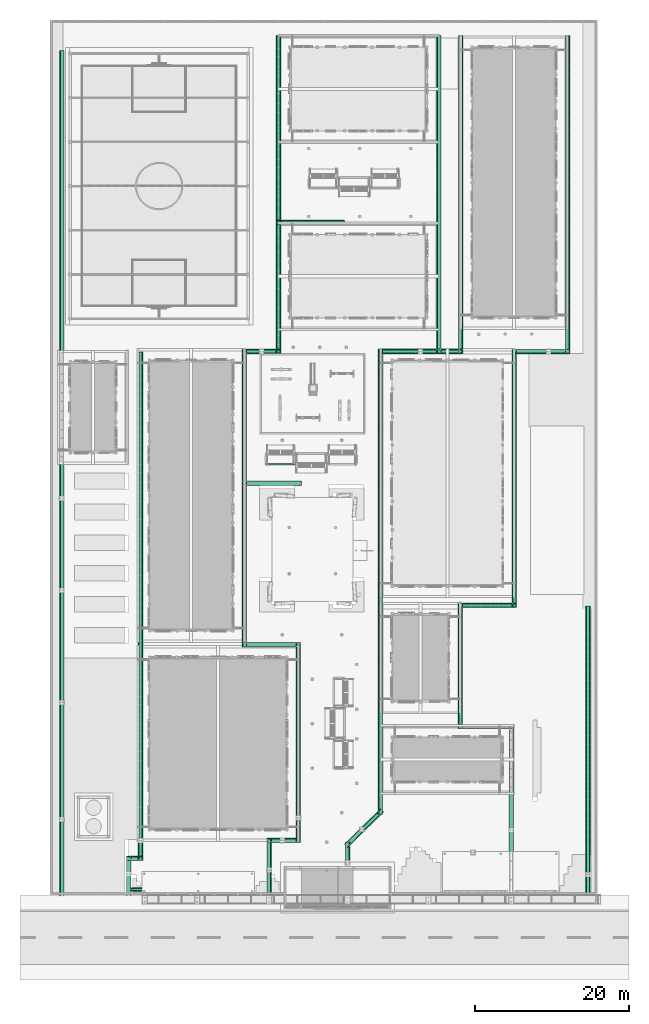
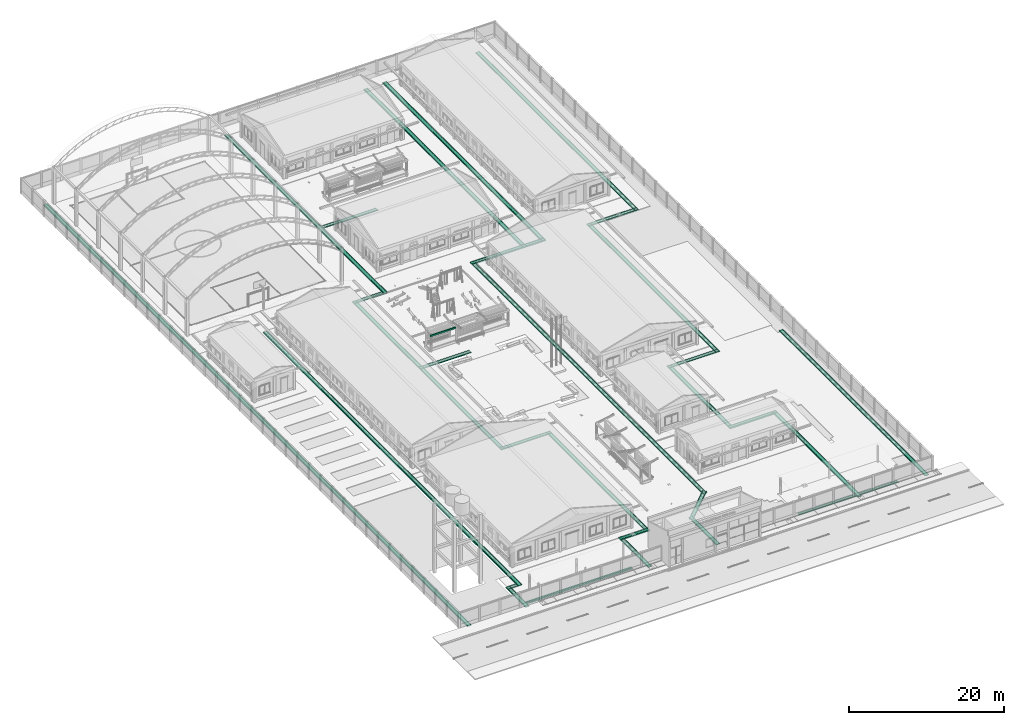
# One storey, part 98 of 151: 3 flow segments.
"""IFC2X3 building model written with IfcOpenShell, lengths in metres."""

from ifc_helpers import new_model, si_unit, origin, origin_with_axes, place, context, subcontext, project, spatial, faceted_brep, element, save


model = new_model("IFC2X3")

# Units and contexts
model_context = context("Model", 3, precision=1e-05, world=origin_with_axes())
body_context = subcontext(model_context, "Body", "Model", "MODEL_VIEW")
ifc_project = project(units=[si_unit("LENGTHUNIT", "METRE"), si_unit("AREAUNIT", "SQUARE_METRE"), si_unit("VOLUMEUNIT", "CUBIC_METRE"), si_unit("PLANEANGLEUNIT", "RADIAN")], contexts=[model_context])

# Site, building, storey
site_placement = place(None, origin_with_axes())
site = spatial("IfcSite", under=ifc_project, at=site_placement, Name="Predio Los Mangos - Morales, San Martín", CompositionType="ELEMENT")
building_placement = place(site_placement, origin())
building = spatial("IfcBuilding", under=site, at=building_placement, Name="Hogar de Refugio Temporal", CompositionType="ELEMENT")
storey_placement = place(building_placement, origin())
storey = spatial("IfcBuildingStorey", under=building, at=storey_placement, Name="NIVEL 1 (NPT +0.00)", CompositionType="ELEMENT", Elevation=0.0)

# Flow segments
flow_segment_1_placement = place(storey_placement, origin())
element("IfcFlowSegment", 1, at=flow_segment_1_placement, inside=storey, Name="oc01_canaleta", ObjectType="Canaleta", context=body_context, shape_type="Brep", body=[
    faceted_brep([(32.695, 73.8, 2.49), (32.695, 73.62, 2.49), (28.905, 73.62, 2.49), (28.905, 73.8, 2.49), (32.695, 73.8, 2.71), (28.905, 73.8, 2.71), (28.905, 73.62, 2.71), (32.695, 73.62, 2.71)], [[[0, 1, 2, 3]], [[4, 5, 6, 7]], [[0, 3, 5, 4]], [[3, 2, 6, 5]], [[2, 1, 7, 6]], [[1, 0, 4, 7]]]),
])
flow_segment_2_placement = place(storey_placement, origin())
element("IfcFlowSegment", 2, at=flow_segment_2_placement, inside=storey, Name="cunetas_muros", ObjectType="Cuneta de concreto b=0.40", context=body_context, shape_type="Brep", body=[
    faceted_brep([(70.899, 55.35, -0.02), (70.999, 55.35, -0.02), (70.999, 17.54, -0.02), (70.899, 17.54, -0.02), (70.899, 55.35, 0.092), (70.899, 17.54, 0.092), (70.999, 17.54, 0.092), (70.999, 55.35, 0.092), (70.399, 55.35, -0.02), (70.499, 55.35, -0.02), (70.499, 17.54, -0.02), (70.399, 17.54, -0.02), (70.399, 55.35, 0.092), (70.399, 17.54, 0.092), (70.499, 17.54, 0.092), (70.499, 55.35, 0.092), (68.255, 129.32, -0.02), (68.355, 129.32, -0.02), (68.355, 88.022, -0.02), (68.255, 88.022, -0.02), (68.255, 129.32, 0.092), (68.255, 88.022, 0.092), (68.355, 88.022, 0.092), (68.355, 129.32, 0.092), (67.755, 129.32, -0.02), (67.855, 129.32, -0.02), (67.855, 88.022, -0.02), (67.755, 88.022, -0.02), (67.755, 129.32, 0.092), (67.755, 88.022, 0.092), (67.855, 88.022, 0.092), (67.855, 129.32, 0.092), (68.355, 88.122, -0.02), (60.848, 88.022, -0.02), (60.848, 88.122, -0.02), (68.355, 88.122, 0.092), (60.848, 88.122, 0.092), (60.848, 88.022, 0.092), (68.355, 88.622, -0.02), (68.355, 88.522, -0.02), (60.848, 88.522, -0.02), (60.848, 88.622, -0.02), (68.355, 88.622, 0.092), (60.848, 88.622, 0.092), (60.848, 88.522, 0.092), (68.355, 88.522, 0.092), (61.348, 88.622, -0.02), (61.448, 88.622, -0.02), (61.448, 55.099, -0.02), (61.348, 55.099, -0.02), (61.348, 88.622, 0.092), (61.348, 55.099, 0.092), (61.448, 55.099, 0.092), (61.448, 88.622, 0.092), (60.948, 88.622, -0.02), (60.948, 55.099, -0.02), (60.848, 55.099, -0.02), (60.848, 55.099, 0.092), (60.948, 55.099, 0.092), (60.948, 88.622, 0.092), (61.448, 55.199, -0.02), (53.838, 55.099, -0.02), (53.838, 55.199, -0.02), (61.448, 55.199, 0.092), (53.838, 55.199, 0.092), (53.838, 55.099, 0.092), (61.448, 55.699, -0.02), (61.448, 55.599, -0.02), (53.838, 55.599, -0.02), (53.838, 55.699, -0.02), (61.448, 55.699, 0.092), (53.838, 55.699, 0.092), (53.838, 55.599, 0.092), (61.448, 55.599, 0.092), (54.338, 55.699, -0.02), (54.438, 55.699, -0.02), (54.438, 39.344, -0.02), (54.338, 39.344, -0.02), (54.338, 55.699, 0.092), (54.338, 39.344, 0.092), (54.438, 39.344, 0.092), (54.438, 55.699, 0.092), (53.938, 55.699, -0.02), (53.938, 39.344, -0.02), (53.838, 39.344, -0.02), (53.838, 39.344, 0.092), (53.938, 39.344, 0.092), (53.938, 55.699, 0.092), (53.838, 39.844, -0.02), (53.838, 39.944, -0.02), (61.037, 39.944, -0.02), (61.037, 39.844, -0.02), (53.838, 39.844, 0.158), (61.037, 39.844, 0.158), (61.037, 39.944, 0.158), (53.838, 39.944, 0.158), (53.838, 39.444, -0.02), (61.037, 39.444, -0.02), (61.037, 39.344, -0.02), (53.838, 39.344, 0.158), (61.037, 39.344, 0.158), (61.037, 39.444, 0.158), (53.838, 39.444, 0.158), (60.937, 39.944, -0.02), (61.037, 17.7, -0.02), (60.937, 17.7, -0.02), (60.937, 39.944, 0.158), (60.937, 17.7, 0.158), (61.037, 17.7, 0.158), (60.437, 39.944, -0.02), (60.537, 39.944, -0.02), (60.537, 17.7, -0.02), (60.437, 17.7, -0.02), (60.437, 39.944, 0.158), (60.437, 17.7, 0.158), (60.537, 17.7, 0.158), (60.537, 39.944, 0.158), (54.372, 129.32, -0.02), (54.472, 129.32, -0.02), (54.472, 88.036, -0.02), (54.372, 88.036, -0.02), (54.372, 129.32, 0.158), (54.372, 88.036, 0.158), (54.472, 88.036, 0.158), (54.472, 129.32, 0.158), (53.872, 129.32, -0.02), (53.972, 129.32, -0.02), (53.972, 88.036, -0.02), (53.872, 88.036, -0.02), (53.872, 129.32, 0.158), (53.872, 88.036, 0.158), (53.972, 88.036, 0.158), (53.972, 129.32, 0.158), (54.472, 88.136, -0.02), (51.1, 88.036, -0.02), (51.1, 88.136, -0.02), (54.472, 88.136, 0.158), (51.1, 88.136, 0.158), (51.1, 88.036, 0.158), (54.472, 88.636, -0.02), (54.472, 88.536, -0.02), (51.1, 88.536, -0.02), (51.1, 88.636, -0.02), (54.472, 88.636, 0.158), (51.1, 88.636, 0.158), (51.1, 88.536, 0.158), (54.472, 88.536, 0.158), (51.542, 129.32, -0.02), (51.642, 129.32, -0.02), (51.642, 88.036, -0.02), (51.542, 88.036, -0.02), (51.542, 129.32, 0.158), (51.542, 88.036, 0.158), (51.642, 88.036, 0.158), (51.642, 129.32, 0.158), (51.042, 129.32, -0.02), (51.142, 129.32, -0.02), (51.142, 88.036, -0.02), (51.042, 88.036, -0.02), (51.042, 129.32, 0.158), (51.042, 88.036, 0.158), (51.142, 88.036, 0.158), (51.142, 129.32, 0.158), (51.642, 88.136, -0.02), (43.455, 88.036, -0.02), (43.455, 88.136, -0.02), (51.642, 88.136, 0.158), (43.455, 88.136, 0.158), (43.455, 88.036, 0.158), (51.642, 88.636, -0.02), (51.642, 88.536, -0.02), (43.455, 88.536, -0.02), (43.455, 88.636, -0.02), (51.642, 88.636, 0.158), (43.455, 88.636, 0.158), (43.455, 88.536, 0.158), (51.642, 88.536, 0.158), (43.955, 88.636, -0.02), (44.055, 88.636, -0.02), (44.055, 28.3, -0.02), (43.955, 28.3, -0.02), (43.955, 88.636, 0.092), (43.955, 28.3, 0.092), (44.055, 28.3, 0.092), (44.055, 88.636, 0.092), (43.555, 88.636, -0.02), (43.555, 28.3, -0.02), (43.455, 28.3, -0.02), (43.455, 88.636, 0.092), (43.455, 28.3, 0.092), (43.555, 28.3, 0.092), (43.555, 88.636, 0.092), (44.1089, 28.669, -0.02), (44.1793, 28.5979, -0.02), (39.5119, 23.9757, -0.02), (39.4416, 24.0468, -0.02), (44.1089, 28.669, 0.092), (39.4416, 24.0468, 0.092), (39.5119, 23.9757, 0.092), (44.1793, 28.5979, 0.092), (43.7571, 29.0243, -0.02), (43.8274, 28.9532, -0.02), (39.1601, 24.331, -0.02), (39.0897, 24.4021, -0.02), (43.7571, 29.0243, 0.092), (39.0897, 24.4021, 0.092), (39.1601, 24.331, 0.092), (43.8274, 28.9532, 0.092), (39.714, 24.7, -0.02), (39.814, 24.7, -0.02), (39.814, 17.54, -0.02), (39.714, 17.54, -0.02), (39.714, 24.7, 0.092), (39.714, 17.54, 0.092), (39.814, 17.54, 0.092), (39.814, 24.7, 0.092), (39.214, 24.7, -0.02), (39.314, 24.7, -0.02), (39.314, 17.54, -0.02), (39.214, 17.54, -0.02), (39.214, 24.7, 0.092), (39.214, 17.54, 0.092), (39.314, 17.54, 0.092), (39.314, 24.7, 0.092), (30.734, 129.32, -0.02), (30.834, 129.32, -0.02), (30.834, 88.036, -0.02), (30.734, 88.036, -0.02), (30.734, 129.32, 0.158), (30.734, 88.036, 0.158), (30.834, 88.036, 0.158), (30.834, 129.32, 0.158), (30.234, 129.32, -0.02), (30.334, 129.32, -0.02), (30.334, 88.036, -0.02), (30.234, 88.036, -0.02), (30.234, 129.32, 0.158), (30.234, 88.036, 0.158), (30.334, 88.036, 0.158), (30.334, 129.32, 0.158), (30.834, 88.136, -0.02), (25.809, 88.036, -0.02), (25.809, 88.136, -0.02), (30.834, 88.136, 0.092), (25.809, 88.136, 0.092), (25.809, 88.036, 0.092), (30.834, 88.036, 0.092), (30.834, 88.636, -0.02), (30.834, 88.536, -0.02), (25.809, 88.536, -0.02), (25.809, 88.636, -0.02), (30.834, 88.636, 0.092), (25.809, 88.636, 0.092), (25.809, 88.536, 0.092), (30.834, 88.536, 0.092), (26.309, 88.636, -0.02), (26.409, 88.636, -0.02), (26.409, 49.993, -0.02), (26.309, 49.993, -0.02), (26.309, 88.636, 0.092), (26.309, 49.993, 0.092), (26.409, 49.993, 0.092), (26.409, 88.636, 0.092), (25.909, 88.636, -0.02), (25.909, 49.993, -0.02), (25.809, 49.993, -0.02), (25.809, 49.993, 0.092), (25.909, 49.993, 0.092), (25.909, 88.636, 0.092), (25.809, 50.493, -0.02), (25.809, 50.593, -0.02), (33.42, 50.593, -0.02), (33.42, 50.493, -0.02), (25.809, 50.493, 0.092), (33.42, 50.493, 0.092), (33.42, 50.593, 0.092), (25.809, 50.593, 0.092), (25.809, 50.093, -0.02), (33.42, 50.093, -0.02), (33.42, 49.993, -0.02), (33.42, 49.993, 0.092), (33.42, 50.093, 0.092), (25.809, 50.093, 0.092), (33.32, 50.593, -0.02), (33.42, 24.617, -0.02), (33.32, 24.617, -0.02), (33.32, 50.593, 0.092), (33.32, 24.617, 0.092), (33.42, 24.617, 0.092), (32.82, 50.593, -0.02), (32.92, 50.593, -0.02), (32.92, 24.617, -0.02), (32.82, 24.617, -0.02), (32.82, 50.593, 0.092), (32.82, 24.617, 0.092), (32.92, 24.617, 0.092), (32.92, 50.593, 0.092), (33.42, 24.717, -0.02), (29.029, 24.617, -0.02), (29.029, 24.717, -0.02), (33.42, 24.717, 0.158), (29.029, 24.717, 0.158), (29.029, 24.617, 0.158), (33.42, 24.617, 0.158), (33.42, 25.217, -0.02), (33.42, 25.117, -0.02), (29.029, 25.117, -0.02), (29.029, 25.217, -0.02), (33.42, 25.217, 0.158), (29.029, 25.217, 0.158), (29.029, 25.117, 0.158), (33.42, 25.117, 0.158), (29.529, 25.217, -0.02), (29.629, 25.217, -0.02), (29.629, 17.54, -0.02), (29.529, 17.54, -0.02), (29.529, 25.217, 0.092), (29.529, 17.54, 0.092), (29.629, 17.54, 0.092), (29.629, 25.217, 0.092), (29.129, 25.217, -0.02), (29.129, 17.54, -0.02), (29.029, 17.54, -0.02), (29.029, 25.217, 0.092), (29.029, 17.54, 0.092), (29.129, 17.54, 0.092), (29.129, 25.217, 0.092), (39.1, 104.889, -0.02), (39.1, 104.789, -0.02), (30.3, 104.789, -0.02), (30.3, 104.889, -0.02), (39.1, 104.889, 0.092), (30.3, 104.889, 0.092), (30.3, 104.789, 0.092), (39.1, 104.789, 0.092), (39.1, 105.389, -0.02), (39.1, 105.289, -0.02), (30.3, 105.289, -0.02), (30.3, 105.389, -0.02), (39.1, 105.389, 0.092), (30.3, 105.389, 0.092), (30.3, 105.289, 0.092), (39.1, 105.289, 0.092), (33.5, 71.046, -0.02), (33.5, 70.946, -0.02), (25.9, 70.946, -0.02), (25.9, 71.046, -0.02), (33.5, 71.046, 0.092), (25.9, 71.046, 0.092), (25.9, 70.946, 0.092), (33.5, 70.946, 0.092), (33.5, 71.546, -0.02), (33.5, 71.446, -0.02), (25.9, 71.446, -0.02), (25.9, 71.546, -0.02), (33.5, 71.546, 0.092), (25.9, 71.546, 0.092), (25.9, 71.446, 0.092), (33.5, 71.446, 0.092), (12.839, 88.3, -0.02), (12.939, 88.3, -0.02), (12.939, 22.28, -0.02), (12.839, 22.28, -0.02), (12.839, 88.3, 0.158), (12.839, 22.28, 0.158), (12.939, 22.28, 0.158), (12.939, 88.3, 0.158), (12.339, 88.3, -0.02), (12.439, 88.3, -0.02), (12.439, 22.28, -0.02), (12.339, 22.28, -0.02), (12.339, 88.3, 0.158), (12.339, 22.28, 0.158), (12.439, 22.28, 0.158), (12.439, 88.3, 0.158), (12.939, 22.38, -0.02), (10.812, 22.28, -0.02), (10.812, 22.38, -0.02), (12.939, 22.38, 0.092), (10.812, 22.38, 0.092), (10.812, 22.28, 0.092), (12.939, 22.28, 0.092), (12.939, 22.88, -0.02), (12.939, 22.78, -0.02), (10.812, 22.78, -0.02), (10.812, 22.88, -0.02), (12.939, 22.88, 0.092), (10.812, 22.88, 0.092), (10.812, 22.78, 0.092), (12.939, 22.78, 0.092), (11.312, 22.88, -0.02), (11.412, 22.88, -0.02), (11.412, 17.7, -0.02), (11.312, 17.7, -0.02), (11.312, 22.88, 0.092), (11.312, 17.7, 0.092), (11.412, 17.7, 0.092), (11.412, 22.88, 0.092), (10.912, 22.88, -0.02), (10.912, 17.7, -0.02), (10.812, 17.7, -0.02), (10.812, 17.7, 0.092), (10.912, 17.7, 0.092), (10.912, 22.88, 0.092), (2.63, 127.4, -0.02), (2.73, 127.4, -0.02), (2.73, 17.7, -0.02), (2.63, 17.7, -0.02), (2.63, 127.4, 0.158), (2.63, 17.7, 0.158), (2.73, 17.7, 0.158), (2.73, 127.4, 0.158), (2.13, 127.4, -0.02), (2.23, 127.4, -0.02), (2.23, 17.7, -0.02), (2.13, 17.7, -0.02), (2.13, 127.4, 0.158), (2.13, 17.7, 0.158), (2.23, 17.7, 0.158), (2.23, 127.4, 0.158), (11.413, 18.701, -0.02), (11.413, 18.801, -0.02), (27.239, 18.801, -0.02), (27.239, 18.701, -0.02), (11.413, 18.701, 0.092), (27.239, 18.701, 0.092), (27.239, 18.801, 0.092), (11.413, 18.801, 0.092), (11.413, 18.301, -0.02), (11.413, 18.401, -0.02), (27.239, 18.401, -0.02), (27.239, 18.301, -0.02), (11.413, 18.301, 0.092), (27.239, 18.301, 0.092), (27.239, 18.401, 0.092), (11.413, 18.401, 0.092), (51.903, 18.401, -0.02), (51.903, 18.501, -0.02), (60.435, 18.501, -0.02), (60.435, 18.401, -0.02), (51.903, 18.401, 0.092), (60.435, 18.401, 0.092), (60.435, 18.501, 0.092), (51.903, 18.501, 0.092), (51.903, 18.001, -0.02), (51.903, 18.101, -0.02), (60.435, 18.101, -0.02), (60.435, 18.001, -0.02), (51.903, 18.001, 0.092), (60.435, 18.001, 0.092), (60.435, 18.101, 0.092), (51.903, 18.101, 0.092), (61.035, 18.401, -0.02), (61.035, 18.501, -0.02), (66.759, 18.501, -0.02), (66.759, 18.401, -0.02), (61.035, 18.401, 0.092), (66.759, 18.401, 0.092), (66.759, 18.501, 0.092), (61.035, 18.501, 0.092), (61.035, 18.001, -0.02), (61.035, 18.101, -0.02), (66.759, 18.101, -0.02), (66.759, 18.001, -0.02), (61.035, 18.001, 0.092), (66.759, 18.001, 0.092), (66.759, 18.101, 0.092), (61.035, 18.101, 0.092)], [[[0, 1, 2, 3]], [[4, 5, 6, 7]], [[0, 3, 5, 4]], [[3, 2, 6, 5]], [[2, 1, 7, 6]], [[1, 0, 4, 7]], [[8, 9, 10, 11]], [[12, 13, 14, 15]], [[8, 11, 13, 12]], [[11, 10, 14, 13]], [[10, 9, 15, 14]], [[9, 8, 12, 15]], [[16, 17, 18, 19]], [[20, 21, 22, 23]], [[16, 19, 21, 20]], [[19, 18, 22, 21]], [[18, 17, 23, 22]], [[17, 16, 20, 23]], [[24, 25, 26, 27]], [[28, 29, 30, 31]], [[24, 27, 29, 28]], [[27, 26, 30, 29]], [[26, 25, 31, 30]], [[25, 24, 28, 31]], [[32, 18, 33, 34]], [[35, 36, 37, 22]], [[32, 34, 36, 35]], [[34, 33, 37, 36]], [[33, 18, 22, 37]], [[18, 32, 35, 22]], [[38, 39, 40, 41]], [[42, 43, 44, 45]], [[38, 41, 43, 42]], [[41, 40, 44, 43]], [[40, 39, 45, 44]], [[39, 38, 42, 45]], [[46, 47, 48, 49]], [[50, 51, 52, 53]], [[46, 49, 51, 50]], [[49, 48, 52, 51]], [[48, 47, 53, 52]], [[47, 46, 50, 53]], [[41, 54, 55, 56]], [[43, 57, 58, 59]], [[41, 56, 57, 43]], [[56, 55, 58, 57]], [[55, 54, 59, 58]], [[54, 41, 43, 59]], [[60, 48, 61, 62]], [[63, 64, 65, 52]], [[60, 62, 64, 63]], [[62, 61, 65, 64]], [[61, 48, 52, 65]], [[48, 60, 63, 52]], [[66, 67, 68, 69]], [[70, 71, 72, 73]], [[66, 69, 71, 70]], [[69, 68, 72, 71]], [[68, 67, 73, 72]], [[67, 66, 70, 73]], [[74, 75, 76, 77]], [[78, 79, 80, 81]], [[74, 77, 79, 78]], [[77, 76, 80, 79]], [[76, 75, 81, 80]], [[75, 74, 78, 81]], [[69, 82, 83, 84]], [[71, 85, 86, 87]], [[69, 84, 85, 71]], [[84, 83, 86, 85]], [[83, 82, 87, 86]], [[82, 69, 71, 87]], [[88, 89, 90, 91]], [[92, 93, 94, 95]], [[88, 91, 93, 92]], [[91, 90, 94, 93]], [[90, 89, 95, 94]], [[89, 88, 92, 95]], [[84, 96, 97, 98]], [[99, 100, 101, 102]], [[84, 98, 100, 99]], [[98, 97, 101, 100]], [[97, 96, 102, 101]], [[96, 84, 99, 102]], [[103, 90, 104, 105]], [[106, 107, 108, 94]], [[103, 105, 107, 106]], [[105, 104, 108, 107]], [[104, 90, 94, 108]], [[90, 103, 106, 94]], [[109, 110, 111, 112]], [[113, 114, 115, 116]], [[109, 112, 114, 113]], [[112, 111, 115, 114]], [[111, 110, 116, 115]], [[110, 109, 113, 116]], [[117, 118, 119, 120]], [[121, 122, 123, 124]], [[117, 120, 122, 121]], [[120, 119, 123, 122]], [[119, 118, 124, 123]], [[118, 117, 121, 124]], [[125, 126, 127, 128]], [[129, 130, 131, 132]], [[125, 128, 130, 129]], [[128, 127, 131, 130]], [[127, 126, 132, 131]], [[126, 125, 129, 132]], [[133, 119, 134, 135]], [[136, 137, 138, 123]], [[133, 135, 137, 136]], [[135, 134, 138, 137]], [[134, 119, 123, 138]], [[119, 133, 136, 123]], [[139, 140, 141, 142]], [[143, 144, 145, 146]], [[139, 142, 144, 143]], [[142, 141, 145, 144]], [[141, 140, 146, 145]], [[140, 139, 143, 146]], [[147, 148, 149, 150]], [[151, 152, 153, 154]], [[147, 150, 152, 151]], [[150, 149, 153, 152]], [[149, 148, 154, 153]], [[148, 147, 151, 154]], [[155, 156, 157, 158]], [[159, 160, 161, 162]], [[155, 158, 160, 159]], [[158, 157, 161, 160]], [[157, 156, 162, 161]], [[156, 155, 159, 162]], [[163, 149, 164, 165]], [[166, 167, 168, 153]], [[163, 165, 167, 166]], [[165, 164, 168, 167]], [[164, 149, 153, 168]], [[149, 163, 166, 153]], [[169, 170, 171, 172]], [[173, 174, 175, 176]], [[169, 172, 174, 173]], [[172, 171, 175, 174]], [[171, 170, 176, 175]], [[170, 169, 173, 176]], [[177, 178, 179, 180]], [[181, 182, 183, 184]], [[177, 180, 182, 181]], [[180, 179, 183, 182]], [[179, 178, 184, 183]], [[178, 177, 181, 184]], [[172, 185, 186, 187]], [[188, 189, 190, 191]], [[172, 187, 189, 188]], [[187, 186, 190, 189]], [[186, 185, 191, 190]], [[185, 172, 188, 191]], [[192, 193, 194, 195]], [[196, 197, 198, 199]], [[192, 195, 197, 196]], [[195, 194, 198, 197]], [[194, 193, 199, 198]], [[193, 192, 196, 199]], [[200, 201, 202, 203]], [[204, 205, 206, 207]], [[200, 203, 205, 204]], [[203, 202, 206, 205]], [[202, 201, 207, 206]], [[201, 200, 204, 207]], [[208, 209, 210, 211]], [[212, 213, 214, 215]], [[208, 211, 213, 212]], [[211, 210, 214, 213]], [[210, 209, 215, 214]], [[209, 208, 212, 215]], [[216, 217, 218, 219]], [[220, 221, 222, 223]], [[216, 219, 221, 220]], [[219, 218, 222, 221]], [[218, 217, 223, 222]], [[217, 216, 220, 223]], [[224, 225, 226, 227]], [[228, 229, 230, 231]], [[224, 227, 229, 228]], [[227, 226, 230, 229]], [[226, 225, 231, 230]], [[225, 224, 228, 231]], [[232, 233, 234, 235]], [[236, 237, 238, 239]], [[232, 235, 237, 236]], [[235, 234, 238, 237]], [[234, 233, 239, 238]], [[233, 232, 236, 239]], [[240, 226, 241, 242]], [[243, 244, 245, 246]], [[240, 242, 244, 243]], [[242, 241, 245, 244]], [[241, 226, 246, 245]], [[226, 240, 243, 246]], [[247, 248, 249, 250]], [[251, 252, 253, 254]], [[247, 250, 252, 251]], [[250, 249, 253, 252]], [[249, 248, 254, 253]], [[248, 247, 251, 254]], [[255, 256, 257, 258]], [[259, 260, 261, 262]], [[255, 258, 260, 259]], [[258, 257, 261, 260]], [[257, 256, 262, 261]], [[256, 255, 259, 262]], [[250, 263, 264, 265]], [[252, 266, 267, 268]], [[250, 265, 266, 252]], [[265, 264, 267, 266]], [[264, 263, 268, 267]], [[263, 250, 252, 268]], [[269, 270, 271, 272]], [[273, 274, 275, 276]], [[269, 272, 274, 273]], [[272, 271, 275, 274]], [[271, 270, 276, 275]], [[270, 269, 273, 276]], [[265, 277, 278, 279]], [[266, 280, 281, 282]], [[265, 279, 280, 266]], [[279, 278, 281, 280]], [[278, 277, 282, 281]], [[277, 265, 266, 282]], [[283, 271, 284, 285]], [[286, 287, 288, 275]], [[283, 285, 287, 286]], [[285, 284, 288, 287]], [[284, 271, 275, 288]], [[271, 283, 286, 275]], [[289, 290, 291, 292]], [[293, 294, 295, 296]], [[289, 292, 294, 293]], [[292, 291, 295, 294]], [[291, 290, 296, 295]], [[290, 289, 293, 296]], [[297, 284, 298, 299]], [[300, 301, 302, 303]], [[297, 299, 301, 300]], [[299, 298, 302, 301]], [[298, 284, 303, 302]], [[284, 297, 300, 303]], [[304, 305, 306, 307]], [[308, 309, 310, 311]], [[304, 307, 309, 308]], [[307, 306, 310, 309]], [[306, 305, 311, 310]], [[305, 304, 308, 311]], [[312, 313, 314, 315]], [[316, 317, 318, 319]], [[312, 315, 317, 316]], [[315, 314, 318, 317]], [[314, 313, 319, 318]], [[313, 312, 316, 319]], [[307, 320, 321, 322]], [[323, 324, 325, 326]], [[307, 322, 324, 323]], [[322, 321, 325, 324]], [[321, 320, 326, 325]], [[320, 307, 323, 326]], [[327, 328, 329, 330]], [[331, 332, 333, 334]], [[327, 330, 332, 331]], [[330, 329, 333, 332]], [[329, 328, 334, 333]], [[328, 327, 331, 334]], [[335, 336, 337, 338]], [[339, 340, 341, 342]], [[335, 338, 340, 339]], [[338, 337, 341, 340]], [[337, 336, 342, 341]], [[336, 335, 339, 342]], [[343, 344, 345, 346]], [[347, 348, 349, 350]], [[343, 346, 348, 347]], [[346, 345, 349, 348]], [[345, 344, 350, 349]], [[344, 343, 347, 350]], [[351, 352, 353, 354]], [[355, 356, 357, 358]], [[351, 354, 356, 355]], [[354, 353, 357, 356]], [[353, 352, 358, 357]], [[352, 351, 355, 358]], [[359, 360, 361, 362]], [[363, 364, 365, 366]], [[359, 362, 364, 363]], [[362, 361, 365, 364]], [[361, 360, 366, 365]], [[360, 359, 363, 366]], [[367, 368, 369, 370]], [[371, 372, 373, 374]], [[367, 370, 372, 371]], [[370, 369, 373, 372]], [[369, 368, 374, 373]], [[368, 367, 371, 374]], [[375, 361, 376, 377]], [[378, 379, 380, 381]], [[375, 377, 379, 378]], [[377, 376, 380, 379]], [[376, 361, 381, 380]], [[361, 375, 378, 381]], [[382, 383, 384, 385]], [[386, 387, 388, 389]], [[382, 385, 387, 386]], [[385, 384, 388, 387]], [[384, 383, 389, 388]], [[383, 382, 386, 389]], [[390, 391, 392, 393]], [[394, 395, 396, 397]], [[390, 393, 395, 394]], [[393, 392, 396, 395]], [[392, 391, 397, 396]], [[391, 390, 394, 397]], [[385, 398, 399, 400]], [[387, 401, 402, 403]], [[385, 400, 401, 387]], [[400, 399, 402, 401]], [[399, 398, 403, 402]], [[398, 385, 387, 403]], [[404, 405, 406, 407]], [[408, 409, 410, 411]], [[404, 407, 409, 408]], [[407, 406, 410, 409]], [[406, 405, 411, 410]], [[405, 404, 408, 411]], [[412, 413, 414, 415]], [[416, 417, 418, 419]], [[412, 415, 417, 416]], [[415, 414, 418, 417]], [[414, 413, 419, 418]], [[413, 412, 416, 419]], [[420, 421, 422, 423]], [[424, 425, 426, 427]], [[420, 423, 425, 424]], [[423, 422, 426, 425]], [[422, 421, 427, 426]], [[421, 420, 424, 427]], [[428, 429, 430, 431]], [[432, 433, 434, 435]], [[428, 431, 433, 432]], [[431, 430, 434, 433]], [[430, 429, 435, 434]], [[429, 428, 432, 435]], [[436, 437, 438, 439]], [[440, 441, 442, 443]], [[436, 439, 441, 440]], [[439, 438, 442, 441]], [[438, 437, 443, 442]], [[437, 436, 440, 443]], [[444, 445, 446, 447]], [[448, 449, 450, 451]], [[444, 447, 449, 448]], [[447, 446, 450, 449]], [[446, 445, 451, 450]], [[445, 444, 448, 451]], [[452, 453, 454, 455]], [[456, 457, 458, 459]], [[452, 455, 457, 456]], [[455, 454, 458, 457]], [[454, 453, 459, 458]], [[453, 452, 456, 459]], [[460, 461, 462, 463]], [[464, 465, 466, 467]], [[460, 463, 465, 464]], [[463, 462, 466, 465]], [[462, 461, 467, 466]], [[461, 460, 464, 467]]]),
])
flow_segment_3_placement = place(storey_placement, origin())
element("IfcFlowSegment", 3, at=flow_segment_3_placement, inside=storey, Name="cunetas_fondo", ObjectType="Cuneta de concreto b=0.40", context=body_context, shape_type="Brep", body=[
    faceted_brep([(70.499, 55.35, -0.02), (70.899, 55.35, -0.02), (70.899, 17.54, -0.02), (70.499, 17.54, -0.02), (70.499, 55.35, 0.062), (70.499, 17.54, 0.062), (70.899, 17.54, 0.062), (70.899, 55.35, 0.062), (67.855, 129.32, -0.02), (68.255, 129.32, -0.02), (68.255, 88.022, -0.02), (67.855, 88.022, -0.02), (67.855, 129.32, 0.062), (67.855, 88.022, 0.062), (68.255, 88.022, 0.062), (68.255, 129.32, 0.062), (68.355, 88.522, -0.02), (68.355, 88.122, -0.02), (60.848, 88.122, -0.02), (60.848, 88.522, -0.02), (68.355, 88.522, 0.062), (60.848, 88.522, 0.062), (60.848, 88.122, 0.062), (68.355, 88.122, 0.062), (60.948, 88.622, -0.02), (61.348, 88.622, -0.02), (61.348, 55.099, -0.02), (60.948, 55.099, -0.02), (60.948, 88.622, 0.062), (60.948, 55.099, 0.062), (61.348, 55.099, 0.062), (61.348, 88.622, 0.062), (61.448, 55.599, -0.02), (61.448, 55.199, -0.02), (53.838, 55.199, -0.02), (53.838, 55.599, -0.02), (61.448, 55.599, 0.062), (53.838, 55.599, 0.062), (53.838, 55.199, 0.062), (61.448, 55.199, 0.062), (53.938, 55.699, -0.02), (54.338, 55.699, -0.02), (54.338, 39.344, -0.02), (53.938, 39.344, -0.02), (53.938, 55.699, 0.062), (53.938, 39.344, 0.062), (54.338, 39.344, 0.062), (54.338, 55.699, 0.062), (53.838, 39.444, -0.02), (53.838, 39.844, -0.02), (61.037, 39.844, -0.02), (61.037, 39.444, -0.02), (53.838, 39.444, 0.128), (61.037, 39.444, 0.128), (61.037, 39.844, 0.128), (53.838, 39.844, 0.128), (60.537, 39.944, -0.02), (60.937, 39.944, -0.02), (60.937, 17.7, -0.02), (60.537, 17.7, -0.02), (60.537, 39.944, 0.128), (60.537, 17.7, 0.128), (60.937, 17.7, 0.128), (60.937, 39.944, 0.128), (53.972, 129.32, -0.02), (54.372, 129.32, -0.02), (54.372, 88.036, -0.02), (53.972, 88.036, -0.02), (53.972, 129.32, 0.128), (53.972, 88.036, 0.128), (54.372, 88.036, 0.128), (54.372, 129.32, 0.128), (54.472, 88.536, -0.02), (54.472, 88.136, -0.02), (51.1, 88.136, -0.02), (51.1, 88.536, -0.02), (54.472, 88.536, 0.128), (51.1, 88.536, 0.128), (51.1, 88.136, 0.128), (54.472, 88.136, 0.128), (51.142, 129.32, -0.02), (51.542, 129.32, -0.02), (51.542, 88.036, -0.02), (51.142, 88.036, -0.02), (51.142, 129.32, 0.128), (51.142, 88.036, 0.128), (51.542, 88.036, 0.128), (51.542, 129.32, 0.128), (51.642, 88.536, -0.02), (51.642, 88.136, -0.02), (43.455, 88.136, -0.02), (43.455, 88.536, -0.02), (51.642, 88.536, 0.128), (43.455, 88.536, 0.128), (43.455, 88.136, 0.128), (51.642, 88.136, 0.128), (43.555, 88.636, -0.02), (43.955, 88.636, -0.02), (43.955, 28.3, -0.02), (43.555, 28.3, -0.02), (43.555, 88.636, 0.062), (43.555, 28.3, 0.062), (43.955, 28.3, 0.062), (43.955, 88.636, 0.062), (43.8274, 28.9532, -0.02), (44.1089, 28.669, -0.02), (39.4416, 24.0468, -0.02), (39.1601, 24.331, -0.02), (43.8274, 28.9532, 0.062), (39.1601, 24.331, 0.062), (39.4416, 24.0468, 0.062), (44.1089, 28.669, 0.062), (39.314, 24.7, -0.02), (39.714, 24.7, -0.02), (39.714, 17.54, -0.02), (39.314, 17.54, -0.02), (39.314, 24.7, 0.062), (39.314, 17.54, 0.062), (39.714, 17.54, 0.062), (39.714, 24.7, 0.062), (30.334, 129.32, -0.02), (30.734, 129.32, -0.02), (30.734, 88.036, -0.02), (30.334, 88.036, -0.02), (30.334, 129.32, 0.128), (30.334, 88.036, 0.128), (30.734, 88.036, 0.128), (30.734, 129.32, 0.128), (30.834, 88.536, -0.02), (30.834, 88.136, -0.02), (25.809, 88.136, -0.02), (25.809, 88.536, -0.02), (30.834, 88.536, 0.062), (25.809, 88.536, 0.062), (25.809, 88.136, 0.062), (30.834, 88.136, 0.062), (25.909, 88.636, -0.02), (26.309, 88.636, -0.02), (26.309, 49.993, -0.02), (25.909, 49.993, -0.02), (25.909, 88.636, 0.062), (25.909, 49.993, 0.062), (26.309, 49.993, 0.062), (26.309, 88.636, 0.062), (25.809, 50.093, -0.02), (25.809, 50.493, -0.02), (33.42, 50.493, -0.02), (33.42, 50.093, -0.02), (25.809, 50.093, 0.062), (33.42, 50.093, 0.062), (33.42, 50.493, 0.062), (25.809, 50.493, 0.062), (32.92, 50.593, -0.02), (33.32, 50.593, -0.02), (33.32, 24.617, -0.02), (32.92, 24.617, -0.02), (32.92, 50.593, 0.062), (32.92, 24.617, 0.062), (33.32, 24.617, 0.062), (33.32, 50.593, 0.062), (33.42, 25.117, -0.02), (33.42, 24.717, -0.02), (29.029, 24.717, -0.02), (29.029, 25.117, -0.02), (33.42, 25.117, 0.128), (29.029, 25.117, 0.128), (29.029, 24.717, 0.128), (33.42, 24.717, 0.128), (29.129, 25.217, -0.02), (29.529, 25.217, -0.02), (29.529, 17.54, -0.02), (29.129, 17.54, -0.02), (29.129, 25.217, 0.062), (29.129, 17.54, 0.062), (29.529, 17.54, 0.062), (29.529, 25.217, 0.062), (39.1, 105.289, -0.02), (39.1, 104.889, -0.02), (30.3, 104.889, -0.02), (30.3, 105.289, -0.02), (39.1, 105.289, 0.062), (30.3, 105.289, 0.062), (30.3, 104.889, 0.062), (39.1, 104.889, 0.062), (33.5, 71.446, -0.02), (33.5, 71.046, -0.02), (25.9, 71.046, -0.02), (25.9, 71.446, -0.02), (33.5, 71.446, 0.062), (25.9, 71.446, 0.062), (25.9, 71.046, 0.062), (33.5, 71.046, 0.062), (12.439, 88.3, -0.02), (12.839, 88.3, -0.02), (12.839, 22.28, -0.02), (12.439, 22.28, -0.02), (12.439, 88.3, 0.128), (12.439, 22.28, 0.128), (12.839, 22.28, 0.128), (12.839, 88.3, 0.128), (12.939, 22.78, -0.02), (12.939, 22.38, -0.02), (10.812, 22.38, -0.02), (10.812, 22.78, -0.02), (12.939, 22.78, 0.062), (10.812, 22.78, 0.062), (10.812, 22.38, 0.062), (12.939, 22.38, 0.062), (10.912, 22.88, -0.02), (11.312, 22.88, -0.02), (11.312, 17.7, -0.02), (10.912, 17.7, -0.02), (10.912, 22.88, 0.062), (10.912, 17.7, 0.062), (11.312, 17.7, 0.062), (11.312, 22.88, 0.062), (2.23, 127.4, -0.02), (2.63, 127.4, -0.02), (2.63, 17.7, -0.02), (2.23, 17.7, -0.02), (2.23, 127.4, 0.128), (2.23, 17.7, 0.128), (2.63, 17.7, 0.128), (2.63, 127.4, 0.128), (11.413, 18.401, -0.02), (11.413, 18.701, -0.02), (27.239, 18.701, -0.02), (27.239, 18.401, -0.02), (11.413, 18.401, 0.062), (27.239, 18.401, 0.062), (27.239, 18.701, 0.062), (11.413, 18.701, 0.062), (51.903, 18.101, -0.02), (51.903, 18.401, -0.02), (60.435, 18.401, -0.02), (60.435, 18.101, -0.02), (51.903, 18.101, 0.062), (60.435, 18.101, 0.062), (60.435, 18.401, 0.062), (51.903, 18.401, 0.062), (61.035, 18.101, -0.02), (61.035, 18.401, -0.02), (66.759, 18.401, -0.02), (66.759, 18.101, -0.02), (61.035, 18.101, 0.062), (66.759, 18.101, 0.062), (66.759, 18.401, 0.062), (61.035, 18.401, 0.062)], [[[0, 1, 2, 3]], [[4, 5, 6, 7]], [[0, 3, 5, 4]], [[3, 2, 6, 5]], [[2, 1, 7, 6]], [[1, 0, 4, 7]], [[8, 9, 10, 11]], [[12, 13, 14, 15]], [[8, 11, 13, 12]], [[11, 10, 14, 13]], [[10, 9, 15, 14]], [[9, 8, 12, 15]], [[16, 17, 18, 19]], [[20, 21, 22, 23]], [[16, 19, 21, 20]], [[19, 18, 22, 21]], [[18, 17, 23, 22]], [[17, 16, 20, 23]], [[24, 25, 26, 27]], [[28, 29, 30, 31]], [[24, 27, 29, 28]], [[27, 26, 30, 29]], [[26, 25, 31, 30]], [[25, 24, 28, 31]], [[32, 33, 34, 35]], [[36, 37, 38, 39]], [[32, 35, 37, 36]], [[35, 34, 38, 37]], [[34, 33, 39, 38]], [[33, 32, 36, 39]], [[40, 41, 42, 43]], [[44, 45, 46, 47]], [[40, 43, 45, 44]], [[43, 42, 46, 45]], [[42, 41, 47, 46]], [[41, 40, 44, 47]], [[48, 49, 50, 51]], [[52, 53, 54, 55]], [[48, 51, 53, 52]], [[51, 50, 54, 53]], [[50, 49, 55, 54]], [[49, 48, 52, 55]], [[56, 57, 58, 59]], [[60, 61, 62, 63]], [[56, 59, 61, 60]], [[59, 58, 62, 61]], [[58, 57, 63, 62]], [[57, 56, 60, 63]], [[64, 65, 66, 67]], [[68, 69, 70, 71]], [[64, 67, 69, 68]], [[67, 66, 70, 69]], [[66, 65, 71, 70]], [[65, 64, 68, 71]], [[72, 73, 74, 75]], [[76, 77, 78, 79]], [[72, 75, 77, 76]], [[75, 74, 78, 77]], [[74, 73, 79, 78]], [[73, 72, 76, 79]], [[80, 81, 82, 83]], [[84, 85, 86, 87]], [[80, 83, 85, 84]], [[83, 82, 86, 85]], [[82, 81, 87, 86]], [[81, 80, 84, 87]], [[88, 89, 90, 91]], [[92, 93, 94, 95]], [[88, 91, 93, 92]], [[91, 90, 94, 93]], [[90, 89, 95, 94]], [[89, 88, 92, 95]], [[96, 97, 98, 99]], [[100, 101, 102, 103]], [[96, 99, 101, 100]], [[99, 98, 102, 101]], [[98, 97, 103, 102]], [[97, 96, 100, 103]], [[104, 105, 106, 107]], [[108, 109, 110, 111]], [[104, 107, 109, 108]], [[107, 106, 110, 109]], [[106, 105, 111, 110]], [[105, 104, 108, 111]], [[112, 113, 114, 115]], [[116, 117, 118, 119]], [[112, 115, 117, 116]], [[115, 114, 118, 117]], [[114, 113, 119, 118]], [[113, 112, 116, 119]], [[120, 121, 122, 123]], [[124, 125, 126, 127]], [[120, 123, 125, 124]], [[123, 122, 126, 125]], [[122, 121, 127, 126]], [[121, 120, 124, 127]], [[128, 129, 130, 131]], [[132, 133, 134, 135]], [[128, 131, 133, 132]], [[131, 130, 134, 133]], [[130, 129, 135, 134]], [[129, 128, 132, 135]], [[136, 137, 138, 139]], [[140, 141, 142, 143]], [[136, 139, 141, 140]], [[139, 138, 142, 141]], [[138, 137, 143, 142]], [[137, 136, 140, 143]], [[144, 145, 146, 147]], [[148, 149, 150, 151]], [[144, 147, 149, 148]], [[147, 146, 150, 149]], [[146, 145, 151, 150]], [[145, 144, 148, 151]], [[152, 153, 154, 155]], [[156, 157, 158, 159]], [[152, 155, 157, 156]], [[155, 154, 158, 157]], [[154, 153, 159, 158]], [[153, 152, 156, 159]], [[160, 161, 162, 163]], [[164, 165, 166, 167]], [[160, 163, 165, 164]], [[163, 162, 166, 165]], [[162, 161, 167, 166]], [[161, 160, 164, 167]], [[168, 169, 170, 171]], [[172, 173, 174, 175]], [[168, 171, 173, 172]], [[171, 170, 174, 173]], [[170, 169, 175, 174]], [[169, 168, 172, 175]], [[176, 177, 178, 179]], [[180, 181, 182, 183]], [[176, 179, 181, 180]], [[179, 178, 182, 181]], [[178, 177, 183, 182]], [[177, 176, 180, 183]], [[184, 185, 186, 187]], [[188, 189, 190, 191]], [[184, 187, 189, 188]], [[187, 186, 190, 189]], [[186, 185, 191, 190]], [[185, 184, 188, 191]], [[192, 193, 194, 195]], [[196, 197, 198, 199]], [[192, 195, 197, 196]], [[195, 194, 198, 197]], [[194, 193, 199, 198]], [[193, 192, 196, 199]], [[200, 201, 202, 203]], [[204, 205, 206, 207]], [[200, 203, 205, 204]], [[203, 202, 206, 205]], [[202, 201, 207, 206]], [[201, 200, 204, 207]], [[208, 209, 210, 211]], [[212, 213, 214, 215]], [[208, 211, 213, 212]], [[211, 210, 214, 213]], [[210, 209, 215, 214]], [[209, 208, 212, 215]], [[216, 217, 218, 219]], [[220, 221, 222, 223]], [[216, 219, 221, 220]], [[219, 218, 222, 221]], [[218, 217, 223, 222]], [[217, 216, 220, 223]], [[224, 225, 226, 227]], [[228, 229, 230, 231]], [[224, 227, 229, 228]], [[227, 226, 230, 229]], [[226, 225, 231, 230]], [[225, 224, 228, 231]], [[232, 233, 234, 235]], [[236, 237, 238, 239]], [[232, 235, 237, 236]], [[235, 234, 238, 237]], [[234, 233, 239, 238]], [[233, 232, 236, 239]], [[240, 241, 242, 243]], [[244, 245, 246, 247]], [[240, 243, 245, 244]], [[243, 242, 246, 245]], [[242, 241, 247, 246]], [[241, 240, 244, 247]]]),
])

save(model, "model.ifc")
